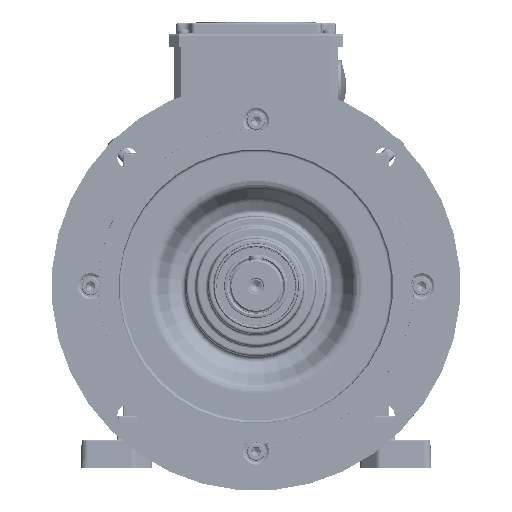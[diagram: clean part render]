
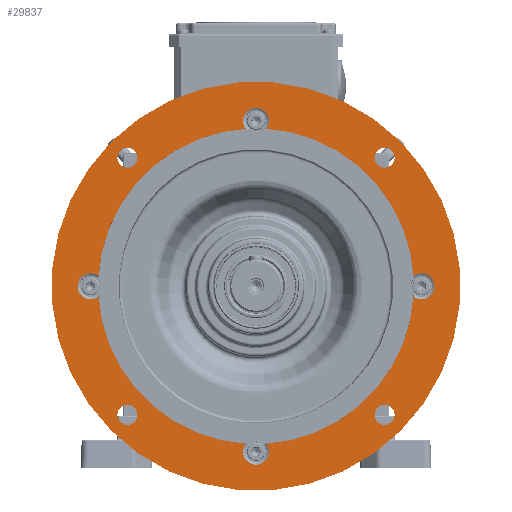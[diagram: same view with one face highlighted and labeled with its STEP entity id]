
A CAD part, top view. The second image highlights one B-rep face of the part: STEP entity #29837.
In plain terms, the highlighted planar face has unit normal (0, 0, 1).
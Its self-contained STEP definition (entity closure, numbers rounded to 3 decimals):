
#11553=FACE_BOUND('',#62963,.T.);
#11554=FACE_BOUND('',#62964,.T.);
#11555=FACE_BOUND('',#62965,.T.);
#11556=FACE_BOUND('',#62966,.T.);
#11557=FACE_BOUND('',#62967,.T.);
#11558=FACE_BOUND('',#62968,.T.);
#29837=ADVANCED_FACE('',(#11553,#11554,#11555,#11556,#11557,#11558),#36282,
 .T.);
#36282=PLANE('',#249106);
#62963=EDGE_LOOP('',(#138696));
#62964=EDGE_LOOP('',(#138697));
#62965=EDGE_LOOP('',(#138698));
#62966=EDGE_LOOP('',(#138699));
#62967=EDGE_LOOP('',(#138700,#138701,#138702,#138703,#138704,#138705,#138706,
#138707));
#62968=EDGE_LOOP('',(#138708));
#138696=ORIENTED_EDGE('',*,*,#200551,.F.);
#138697=ORIENTED_EDGE('',*,*,#200552,.F.);
#138698=ORIENTED_EDGE('',*,*,#200553,.F.);
#138699=ORIENTED_EDGE('',*,*,#200554,.F.);
#138700=ORIENTED_EDGE('',*,*,#200555,.T.);
#138701=ORIENTED_EDGE('',*,*,#200556,.T.);
#138702=ORIENTED_EDGE('',*,*,#200557,.T.);
#138703=ORIENTED_EDGE('',*,*,#200558,.T.);
#138704=ORIENTED_EDGE('',*,*,#200559,.T.);
#138705=ORIENTED_EDGE('',*,*,#200560,.T.);
#138706=ORIENTED_EDGE('',*,*,#200561,.T.);
#138707=ORIENTED_EDGE('',*,*,#200562,.T.);
#138708=ORIENTED_EDGE('',*,*,#200563,.T.);
#171204=VERTEX_POINT('',#422759);
#171205=VERTEX_POINT('',#422761);
#171206=VERTEX_POINT('',#422763);
#171207=VERTEX_POINT('',#422765);
#171208=VERTEX_POINT('',#422767);
#171209=VERTEX_POINT('',#422768);
#171210=VERTEX_POINT('',#422770);
#171211=VERTEX_POINT('',#422772);
#171212=VERTEX_POINT('',#422774);
#171213=VERTEX_POINT('',#422776);
#171214=VERTEX_POINT('',#422778);
#171215=VERTEX_POINT('',#422780);
#171216=VERTEX_POINT('',#422783);
#200551=EDGE_CURVE('',#171204,#171204,#224917,.T.);
#200552=EDGE_CURVE('',#171205,#171205,#224918,.T.);
#200553=EDGE_CURVE('',#171206,#171206,#224919,.T.);
#200554=EDGE_CURVE('',#171207,#171207,#224920,.T.);
#200555=EDGE_CURVE('',#171208,#171209,#224921,.T.);
#200556=EDGE_CURVE('',#171209,#171210,#224922,.T.);
#200557=EDGE_CURVE('',#171210,#171211,#224923,.T.);
#200558=EDGE_CURVE('',#171211,#171212,#224924,.T.);
#200559=EDGE_CURVE('',#171212,#171213,#224925,.T.);
#200560=EDGE_CURVE('',#171213,#171214,#224926,.T.);
#200561=EDGE_CURVE('',#171214,#171215,#224927,.T.);
#200562=EDGE_CURVE('',#171215,#171208,#224928,.T.);
#200563=EDGE_CURVE('',#171216,#171216,#224929,.T.);
#224917=CIRCLE('',#249093,7.25);
#224918=CIRCLE('',#249094,7.25);
#224919=CIRCLE('',#249095,7.25);
#224920=CIRCLE('',#249096,7.25);
#224921=CIRCLE('',#249097,115.);
#224922=CIRCLE('',#249098,9.482);
#224923=CIRCLE('',#249099,115.);
#224924=CIRCLE('',#249100,9.482);
#224925=CIRCLE('',#249101,115.);
#224926=CIRCLE('',#249102,9.482);
#224927=CIRCLE('',#249103,115.);
#224928=CIRCLE('',#249104,9.482);
#224929=CIRCLE('',#249105,149.);
#249093=AXIS2_PLACEMENT_3D('',#422758,#305316,#305317);
#249094=AXIS2_PLACEMENT_3D('',#422760,#305318,#305319);
#249095=AXIS2_PLACEMENT_3D('',#422762,#305320,#305321);
#249096=AXIS2_PLACEMENT_3D('',#422764,#305322,#305323);
#249097=AXIS2_PLACEMENT_3D('',#422766,#305324,#305325);
#249098=AXIS2_PLACEMENT_3D('',#422769,#305326,#305327);
#249099=AXIS2_PLACEMENT_3D('',#422771,#305328,#305329);
#249100=AXIS2_PLACEMENT_3D('',#422773,#305330,#305331);
#249101=AXIS2_PLACEMENT_3D('',#422775,#305332,#305333);
#249102=AXIS2_PLACEMENT_3D('',#422777,#305334,#305335);
#249103=AXIS2_PLACEMENT_3D('',#422779,#305336,#305337);
#249104=AXIS2_PLACEMENT_3D('',#422781,#305338,#305339);
#249105=AXIS2_PLACEMENT_3D('',#422782,#305340,#305341);
#249106=AXIS2_PLACEMENT_3D('',#422784,#305342,#305343);
#305316=DIRECTION('',(0.,0.,1.));
#305317=DIRECTION('',(0.707,0.707,0.));
#305318=DIRECTION('',(0.,0.,1.));
#305319=DIRECTION('',(-0.707,0.707,0.));
#305320=DIRECTION('',(0.,0.,1.));
#305321=DIRECTION('',(-0.707,-0.707,0.));
#305322=DIRECTION('',(0.,0.,1.));
#305323=DIRECTION('',(0.707,-0.707,0.));
#305324=DIRECTION('',(0.,0.,-1.));
#305325=DIRECTION('',(0.707,0.707,0.));
#305326=DIRECTION('',(0.,0.,-1.));
#305327=DIRECTION('',(-0.707,-0.707,0.));
#305328=DIRECTION('',(0.,0.,-1.));
#305329=DIRECTION('',(0.707,0.707,0.));
#305330=DIRECTION('',(0.,0.,-1.));
#305331=DIRECTION('',(-0.707,-0.707,0.));
#305332=DIRECTION('',(0.,0.,-1.));
#305333=DIRECTION('',(0.707,0.707,0.));
#305334=DIRECTION('',(0.,0.,-1.));
#305335=DIRECTION('',(-0.707,-0.707,0.));
#305336=DIRECTION('',(0.,0.,-1.));
#305337=DIRECTION('',(0.707,0.707,0.));
#305338=DIRECTION('',(0.,0.,-1.));
#305339=DIRECTION('',(-0.707,-0.707,0.));
#305340=DIRECTION('',(0.,0.,1.));
#305341=DIRECTION('',(0.707,0.707,0.));
#305342=DIRECTION('',(0.,0.,1.));
#305343=DIRECTION('',(-0.707,-0.707,0.));
#422758=CARTESIAN_POINT('',(-93.692,93.691,72.492));
#422759=CARTESIAN_POINT('',(-88.565,98.817,72.491));
#422760=CARTESIAN_POINT('',(-93.692,-93.692,72.5));
#422761=CARTESIAN_POINT('',(-98.818,-88.566,72.5));
#422762=CARTESIAN_POINT('',(93.691,-93.692,72.498));
#422763=CARTESIAN_POINT('',(88.565,-98.819,72.498));
#422764=CARTESIAN_POINT('',(93.691,93.691,72.489));
#422765=CARTESIAN_POINT('',(98.818,88.564,72.49));
#422766=CARTESIAN_POINT('',(0.,-0.001,
72.495));
#422767=CARTESIAN_POINT('',(-7.542,-114.753,72.5));
#422768=CARTESIAN_POINT('',(-114.753,-7.542,72.496));
#422769=CARTESIAN_POINT('',(-120.5,-0.001,72.496));
#422770=CARTESIAN_POINT('',(-114.753,7.541,72.496));
#422771=CARTESIAN_POINT('',(0.,-0.001,
72.495));
#422772=CARTESIAN_POINT('',(-7.542,114.752,72.49));
#422773=CARTESIAN_POINT('',(0.,120.499,72.489));
#422774=CARTESIAN_POINT('',(7.541,114.752,72.489));
#422775=CARTESIAN_POINT('',(0.,-0.001,
72.495));
#422776=CARTESIAN_POINT('',(114.752,7.541,72.493));
#422777=CARTESIAN_POINT('',(120.5,-0.001,72.493));
#422778=CARTESIAN_POINT('',(114.752,-7.542,72.494));
#422779=CARTESIAN_POINT('',(0.,-0.001,
72.495));
#422780=CARTESIAN_POINT('',(7.541,-114.753,72.5));
#422781=CARTESIAN_POINT('',(0.,-120.501,72.5));
#422782=CARTESIAN_POINT('',(0.,-0.001,
72.495));
#422783=CARTESIAN_POINT('',(105.359,105.358,72.489));
#422784=CARTESIAN_POINT('',(0.,-0.001,
72.495));
